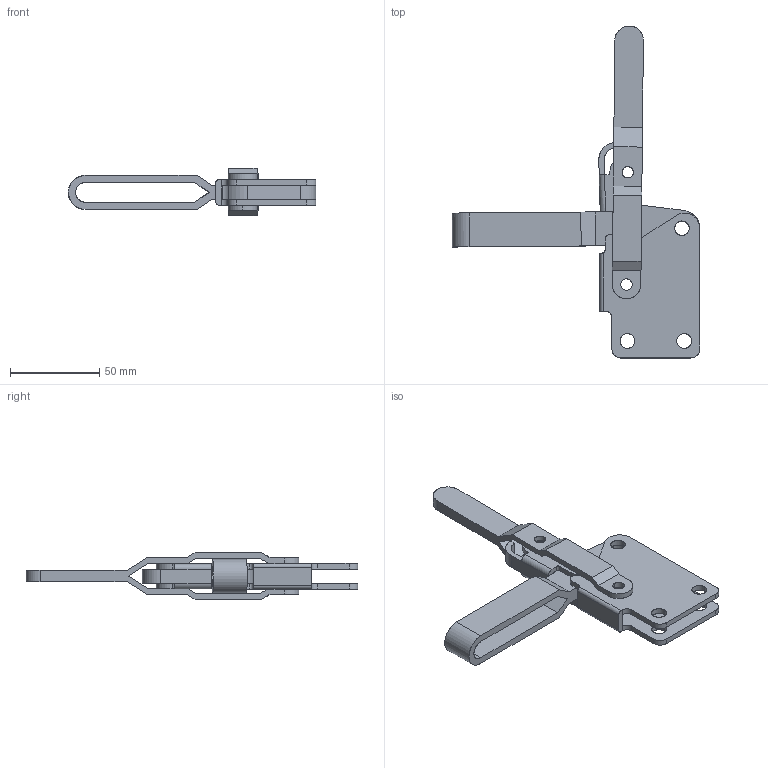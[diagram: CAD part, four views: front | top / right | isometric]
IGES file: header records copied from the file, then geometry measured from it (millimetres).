
Start section: SolidWorks IGES file using analytic representation for surfaces
Global section: file name: D:\GH Files\GH-SW-FILES\GH1\GH-12270\12270\GH-12270.IGS; native system: SolidWorks 2006 by SolidWorks Corporation; preprocessor: SolidWorks 2006 by SolidWorks Corporation; author: Administrator; date: 060825.123724; units: millimetre
Bounding box: 138.57 x 185.77 x 26.5 mm (x, y, z)
Surface area: 43386.5 mm2 (no closed solid volume)
Topology: 0 solids, 0 shells, 164 faces, 2808 edges, 2808 vertices
Faces by surface type: revolution 86, bspline 78
